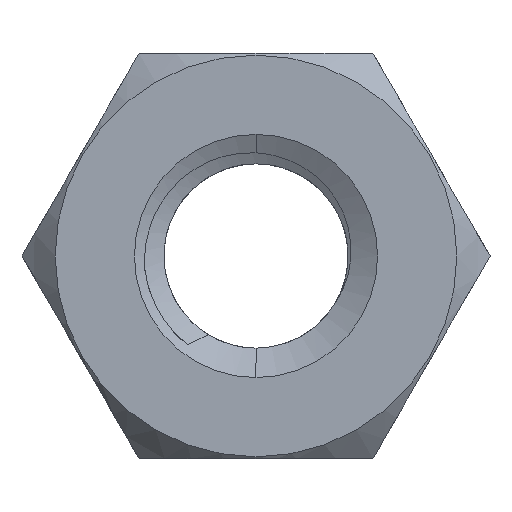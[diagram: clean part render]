
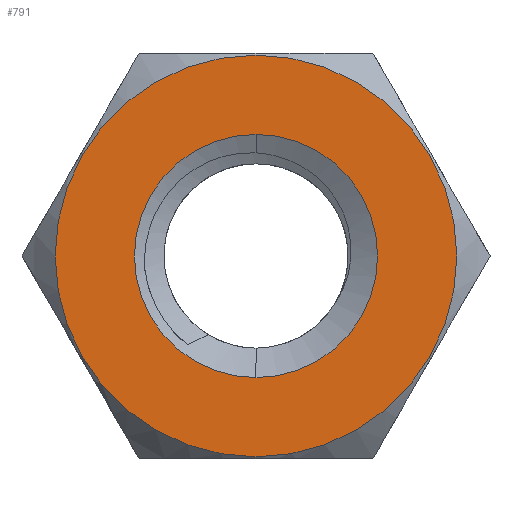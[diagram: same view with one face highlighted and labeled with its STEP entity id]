
A CAD part, front view. The second image highlights one B-rep face of the part: STEP entity #791.
In plain terms, the highlighted planar face has unit normal (0, -1, 0).
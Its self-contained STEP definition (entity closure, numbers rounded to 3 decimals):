
#39 = DIRECTION ( 'NONE',  ( 0., -1., 0. ) ) ;
#112 = ORIENTED_EDGE ( 'NONE', *, *, #2126, .F. ) ;
#146 = EDGE_CURVE ( 'NONE', #978, #1262, #357, .T. ) ;
#239 = DIRECTION ( 'NONE',  ( 0., -1., 0. ) ) ;
#300 = CARTESIAN_POINT ( 'NONE',  ( 0., -0.9, 0. ) ) ;
#357 = CIRCLE ( 'NONE', #1313, 2.725 ) ;
#400 = AXIS2_PLACEMENT_3D ( 'NONE', #300, #1426, #1438 ) ;
#494 = DIRECTION ( 'NONE',  ( 0., -1., 0. ) ) ;
#599 = AXIS2_PLACEMENT_3D ( 'NONE', #2375, #494, #2003 ) ;
#629 = ORIENTED_EDGE ( 'NONE', *, *, #1575, .T. ) ;
#679 = AXIS2_PLACEMENT_3D ( 'NONE', #924, #2288, #1905 ) ;
#791 = ADVANCED_FACE ( 'NONE', ( #2023, #1824 ), #1646, .F. ) ;
#843 = ORIENTED_EDGE ( 'NONE', *, *, #2429, .F. ) ;
#864 = CARTESIAN_POINT ( 'NONE',  ( 0., -0.9, 2.725 ) ) ;
#879 = CIRCLE ( 'NONE', #599, 2.725 ) ;
#924 = CARTESIAN_POINT ( 'NONE',  ( 0., -0.9, 0. ) ) ;
#978 = VERTEX_POINT ( 'NONE', #864 ) ;
#1057 = VERTEX_POINT ( 'NONE', #2268 ) ;
#1102 = EDGE_LOOP ( 'NONE', ( #843, #112 ) ) ;
#1160 = CARTESIAN_POINT ( 'NONE',  ( 0., -0.9, 0. ) ) ;
#1262 = VERTEX_POINT ( 'NONE', #2290 ) ;
#1313 = AXIS2_PLACEMENT_3D ( 'NONE', #1785, #239, #1597 ) ;
#1318 = CIRCLE ( 'NONE', #2442, 1.65 ) ;
#1426 = DIRECTION ( 'NONE',  ( 0., 1., 0. ) ) ;
#1438 = DIRECTION ( 'NONE',  ( 0., 0., 1. ) ) ;
#1439 = CIRCLE ( 'NONE', #679, 1.65 ) ;
#1486 = CARTESIAN_POINT ( 'NONE',  ( 0., -0.9, -1.65 ) ) ;
#1575 = EDGE_CURVE ( 'NONE', #1262, #978, #879, .T. ) ;
#1597 = DIRECTION ( 'NONE',  ( 0., 0., -1. ) ) ;
#1646 = PLANE ( 'NONE',  #400 ) ;
#1775 = EDGE_LOOP ( 'NONE', ( #2223, #629 ) ) ;
#1785 = CARTESIAN_POINT ( 'NONE',  ( 0., -0.9, 0. ) ) ;
#1824 = FACE_OUTER_BOUND ( 'NONE', #1775, .T. ) ;
#1905 = DIRECTION ( 'NONE',  ( 0., 0., -1. ) ) ;
#2003 = DIRECTION ( 'NONE',  ( 0., 0., -1. ) ) ;
#2023 = FACE_BOUND ( 'NONE', #1102, .T. ) ;
#2072 = VERTEX_POINT ( 'NONE', #1486 ) ;
#2126 = EDGE_CURVE ( 'NONE', #2072, #1057, #1439, .T. ) ;
#2145 = DIRECTION ( 'NONE',  ( 0., 0., -1. ) ) ;
#2223 = ORIENTED_EDGE ( 'NONE', *, *, #146, .T. ) ;
#2268 = CARTESIAN_POINT ( 'NONE',  ( 0., -0.9, 1.65 ) ) ;
#2288 = DIRECTION ( 'NONE',  ( 0., -1., 0. ) ) ;
#2290 = CARTESIAN_POINT ( 'NONE',  ( 0., -0.9, -2.725 ) ) ;
#2375 = CARTESIAN_POINT ( 'NONE',  ( 0., -0.9, 0. ) ) ;
#2429 = EDGE_CURVE ( 'NONE', #1057, #2072, #1318, .T. ) ;
#2442 = AXIS2_PLACEMENT_3D ( 'NONE', #1160, #39, #2145 ) ;
